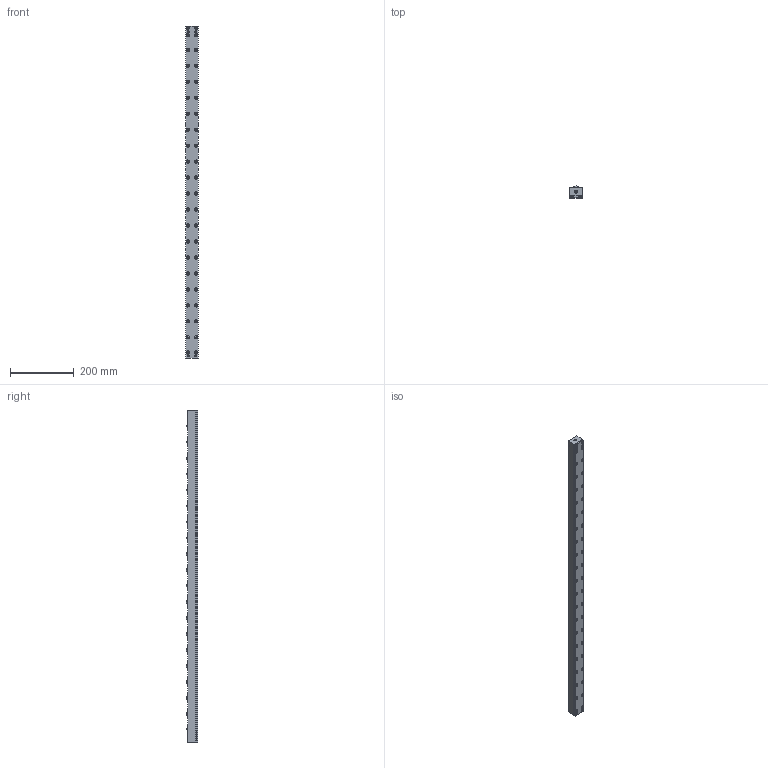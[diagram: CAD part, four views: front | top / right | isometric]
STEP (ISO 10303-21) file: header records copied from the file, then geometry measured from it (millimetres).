
FILE_DESCRIPTION (( 'STEP AP203' ), '1' );
FILE_NAME ('PVL30SL-20-P50.STEP', '2016-01-06T06:14:32', ( '' ), ( '' ), 'SwSTEP 2.0', 'SolidWorks 2013', '' );
FILE_SCHEMA (( 'CONFIG_CONTROL_DESIGN' ));
Length unit declared in the file: millimetre
Products named in the file (1): PVL30SL-20-P50
Bounding box: 38 x 36 x 1040 mm (x, y, z)
Volume: 1228985 mm3; surface area: 337292.4 mm2
Topology: 9 solids, 9 shells, 829 faces, 1884 edges, 1251 vertices
Faces by surface type: plane 459, cylinder 290, cone 40, sphere 40
Entity records: 23517 total; most frequent: DIRECTION 4242, CARTESIAN_POINT 3951, ORIENTED_EDGE 3740, EDGE_CURVE 1870, AXIS2_PLACEMENT_3D 1542, VERTEX_POINT 1251, VECTOR 1158, LINE 1158
